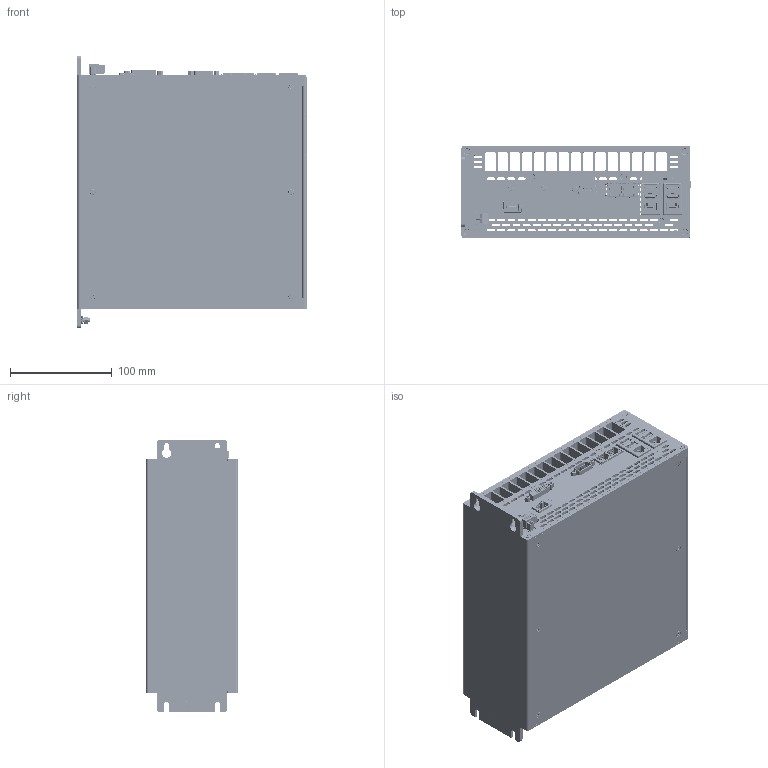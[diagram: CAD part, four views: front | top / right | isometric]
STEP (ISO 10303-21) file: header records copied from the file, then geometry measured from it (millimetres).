
FILE_DESCRIPTION (( 'STEP AP214' ), '1' );
FILE_NAME ('C6P34-BM_D1_RVL.STEP', '2019-09-20T12:57:05', ( '' ), ( '' ), 'SwSTEP 2.0', 'SolidWorks 2018', '' );
FILE_SCHEMA (( 'AUTOMOTIVE_DESIGN' ));
Length unit declared in the file: millimetre
Products named in the file (45): 54236002_Default<A macchina>; 66820000; 21410056; 52536136; 21509026; 52912002; 21410046; 14300036; 52500002; piazzuola_de800_di370; 7397_276_Depopolata; 21405029; 56636725; 23330039; 62920011; 20100011; 21410060; 66011039; 61820002; 53936027; 56636706; 64312003; 66811014; 21502089; 21614000; 57136006; 62920005; 7397_276; 7359_051; 54336015; 62920001; 62120039; 66320015; 7397_279_Depopolata; 21512011; 7359_051_Depopolata; 54336010; 21410052; 7397_279; 21402062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
Assembly tree (106 placements, depth 3):
  C6P34-BM_D1_RVL
    52500002
      52536136
      52912002
      66320015  x4
    7359_051_Depopolata
      7359_051
      23330039  x4
      21410052
      21512011
      21410046  x2
      21410056
      21409042
      21405029  x2
      20100011
      21509026
      piazzuola_de800_di370  x8
      14300036  x7
    54236002_Default<A macchina>
    7397_279_Depopolata
      7397_279
      21502089
      piazzuola_de800_di370  x5
    21402062
    54336015
      54336010
      57136005
      62990009  x4
      64312003  x4
      62120039  x2
      57136006
    56636725
    56636706
    53936027  x2
    21614000  x4
    66011039  x12
    66820000
    66811014  x12
    62920001
    62920005
    62920011
    61820002
    7397_276_Depopolata
      7397_276
      21410060
      21505014
      piazzuola_de800_di370  x2
      14300036
Bounding box: 225.01 x 90 x 268 mm (x, y, z)
Volume: 518154.5 mm3; surface area: 940386.1 mm2
Topology: 161 solids, 388 shells, 23660 faces, 66497 edges, 43609 vertices
Faces by surface type: plane 14807, cylinder 7637, bspline 703, cone 464, torus 49
Entity records: 692451 total; most frequent: CARTESIAN_POINT 149815, ORIENTED_EDGE 108309, DIRECTION 100411, EDGE_CURVE 55017, VECTOR 39735, LINE 39735, VERTEX_POINT 36166, AXIS2_PLACEMENT_3D 30338
